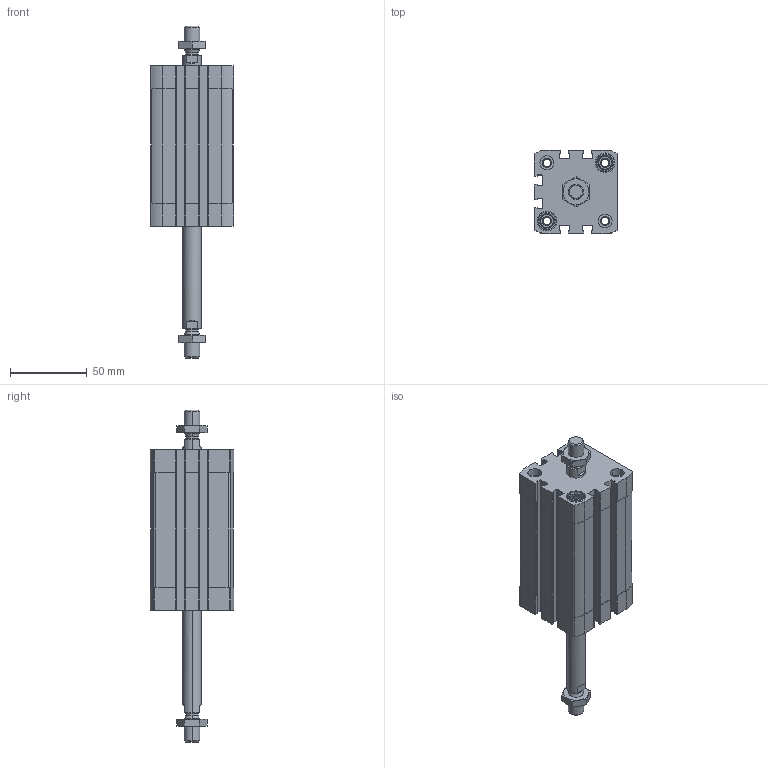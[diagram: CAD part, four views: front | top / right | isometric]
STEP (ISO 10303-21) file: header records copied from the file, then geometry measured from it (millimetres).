
FILE_DESCRIPTION (( 'STEP AP203' ), '1' );
FILE_NAME ('CCN40-60-P.STEP', '2020-06-22T18:53:42', ( '' ), ( '' ), 'SwSTEP 2.0', 'SolidWorks 2019', '' );
FILE_SCHEMA (( 'CONFIG_CONTROL_DESIGN' ));
Length unit declared in the file: millimetre
Products named in the file (1): CCN40-60-P
Bounding box: 54.5 x 54.5 x 216.6 mm (x, y, z)
Volume: 214564.2 mm3; surface area: 70731.9 mm2
Topology: 4 solids, 4 shells, 536 faces, 1418 edges, 922 vertices
Faces by surface type: plane 288, cylinder 180, cone 60, torus 8
Entity records: 17391 total; most frequent: CARTESIAN_POINT 3745, DIRECTION 2902, ORIENTED_EDGE 2836, EDGE_CURVE 1418, AXIS2_PLACEMENT_3D 1071, VERTEX_POINT 922, LINE 760, VECTOR 760
